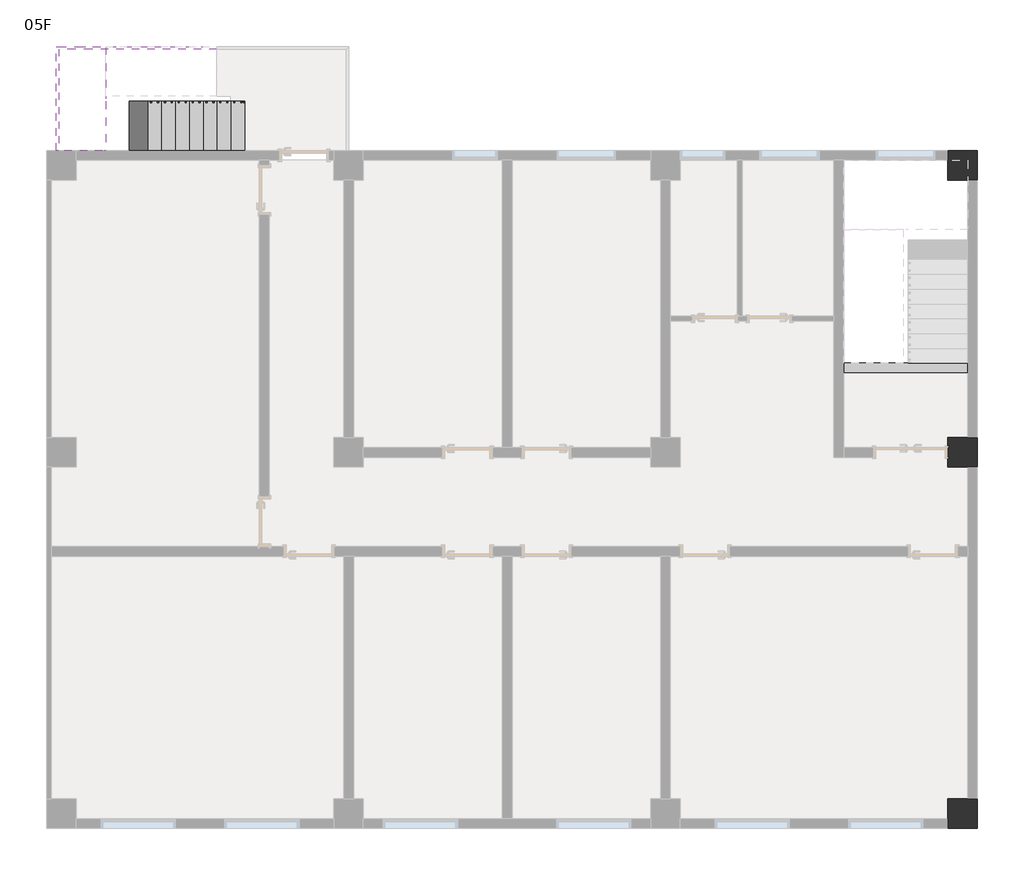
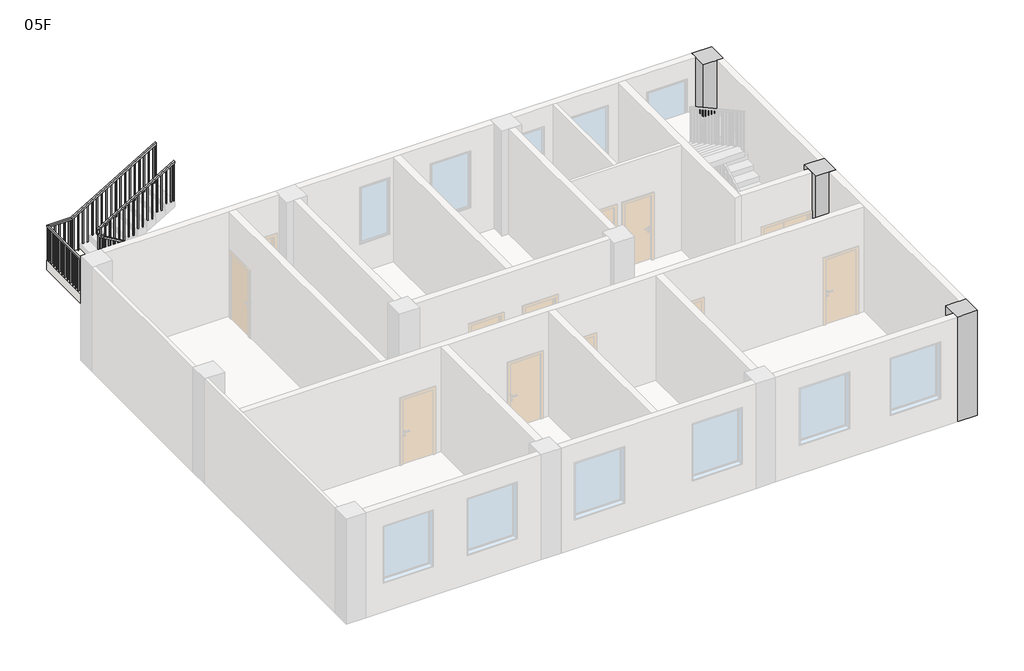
# One storey, part 2 of 3: 3 columns, 2 railings, 1 beam, 1 slab, 1 stair flight.
"""IFC4 building model written with IfcOpenShell, lengths in millimetres."""

from ifc_helpers import new_model, si_unit, frame, origin, place, context, project, spatial, polyline, outline, extrude, faceted_brep, transform, mapped, element, save
from components import beam_200_x_350mm_bc6e23a3, column_600_x_600mm_867b5594

model = new_model("IFC4")

# Units and contexts
model_context = context("Model", 3, world=origin())
ifc_project = project(units=[si_unit("LENGTHUNIT", "METRE", prefix="MILLI")], contexts=[model_context])

# Site, building, storey
site = spatial("IfcSite", under=ifc_project)
building = spatial("IfcBuilding", under=site)
storey = spatial("IfcBuildingStorey", under=building, Name="05F", Elevation=13800.0)

# Beam
placement = place(None, origin())
beam_200_x_350mm_shape = beam_200_x_350mm_bc6e23a3(model_context)
element("IfcBeam", 1, ObjectType="混凝土 - 矩形梁 : 200 x 350mm", at=placement, inside=storey, context=model_context, shape_type="MappedRepresentation", body=[
    mapped(beam_200_x_350mm_shape, transform((17250.0, 9200.0, 13625.0), x_axis=(1.0, 0.0, 0.0), y_axis=(0.0, 1.0, 0.0), z_axis=(0.0, 0.0, 1.0))),
])

# Columns
column_600_x_600mm_shape = column_600_x_600mm_867b5594(model_context)
element("IfcColumn", 2, ObjectType="混凝土 - 矩形 - 柱 : 600 x 600mm", at=placement, inside=storey, context=model_context, shape_type="MappedRepresentation", body=[
    mapped(column_600_x_600mm_shape, transform((18400.0, 13300.0, 0.0), x_axis=(1.0, 0.0, 0.0), y_axis=(0.0, 1.0, 0.0), z_axis=(0.0, 0.0, 1.0))),
])
element("IfcColumn", 3, ObjectType="混凝土 - 矩形 - 柱 : 600 x 600mm", at=placement, inside=storey, context=model_context, shape_type="MappedRepresentation", body=[
    mapped(column_600_x_600mm_shape, transform((18400.0, 7500.0, 0.0), x_axis=(1.0, 0.0, 0.0), y_axis=(0.0, 1.0, 0.0), z_axis=(0.0, 0.0, 1.0))),
])
element("IfcColumn", 4, ObjectType="混凝土 - 矩形 - 柱 : 600 x 600mm", at=placement, inside=storey, context=model_context, shape_type="MappedRepresentation", body=[
    mapped(column_600_x_600mm_shape, transform((18400.0, 200.0, 0.0), x_axis=(1.0, 0.0, 0.0), y_axis=(0.0, 1.0, 0.0), z_axis=(0.0, 0.0, 1.0))),
])

# Railings
element("IfcRailing", 5, ObjectType="1100mm", at=placement, inside=storey, context=model_context, shape_type="SolidModel", body=[
    faceted_brep([(3900.0, 14549.6, 15065.0), (3900.0, 14549.6, 15006.9642857), (3900.0, 14599.6, 15006.9642857), (3900.0, 14599.6, 15065.0), (1174.6, 14549.6, 16671.0392857), (1124.6, 14549.6, 16642.4678571), (1124.6, 14599.6, 16642.4678571), (1174.6, 14599.6, 16671.0392857), (1174.6, 14549.6, 16715.0), (1124.6, 14549.6, 16665.0), (1124.6, 14599.6, 16665.0), (1174.6, 14599.6, 16715.0), (1049.6, 14549.6, 16715.0), (1049.6, 14549.6, 16665.0), (1099.6, 14599.6, 16665.0), (1099.6, 14599.6, 16715.0), (1049.6, 14674.6, 16715.0), (1049.6, 14674.6, 16665.0), (1099.6, 14674.6, 16665.0), (1099.6, 14674.6, 16715.0), (1049.6, 14700.4, 16715.0), (1099.6, 14700.4, 16715.0), (1099.6, 14750.4, 16665.0), (1049.6, 14750.4, 16665.0)], [[[0, 1, 2, 3]], [[1, 0, 4, 5]], [[2, 1, 5, 6]], [[3, 2, 6, 7]], [[0, 3, 7, 4]], [[5, 4, 8, 9]], [[6, 5, 9, 10]], [[7, 6, 10, 11]], [[4, 7, 11, 8]], [[9, 8, 12, 13]], [[10, 9, 13, 14]], [[11, 10, 14, 15]], [[8, 11, 15, 12]], [[13, 12, 16, 17]], [[14, 13, 17, 18]], [[15, 14, 18, 19]], [[12, 15, 19, 16]], [[20, 21, 22, 23]], [[17, 16, 20, 23]], [[18, 17, 23, 22]], [[19, 18, 22, 21]], [[16, 19, 21, 20]]]),
    faceted_brep([(1049.6, 14700.4, 16715.0), (1049.6, 14750.4, 16665.0), (1099.6, 14750.4, 16665.0), (1099.6, 14700.4, 16715.0), (1049.6, 14700.4, 16850.3), (1099.6, 14700.4, 16821.7285714), (1099.6, 14750.4, 16821.7285714), (1049.6, 14750.4, 16850.3)], [[[0, 1, 2, 3]], [[4, 5, 6, 7]], [[1, 0, 4, 7]], [[2, 1, 7, 6]], [[3, 2, 6, 5]], [[0, 3, 5, 4]]]),
    faceted_brep([(1049.6, 14750.4, 16850.3), (1099.6, 14750.4, 16821.7285714), (1099.6, 14700.4, 16821.7285714), (1049.6, 14700.4, 16850.3), (3340.0, 14750.4, 18200.0), (3340.0, 14700.4, 18200.0), (3340.0, 14700.4, 18141.9642857), (3340.0, 14750.4, 18141.9642857)], [[[0, 1, 2, 3]], [[4, 5, 6, 7]], [[1, 0, 4, 7]], [[2, 1, 7, 6]], [[3, 2, 6, 5]], [[0, 3, 5, 4]]]),
    extrude(outline(polyline([(18078.3803571, 3232.1), (16935.0, 3232.1), (16935.0, 3257.1), (18093.1125, 3257.1), (18078.3803571, 3232.1)])), frame((0.0, 14712.9, 0.0), z_axis=(0.0, 1.0, 0.0), x_axis=(0.0, 0.0, 1.0)), (0.0, 0.0, 1.0), 25.0),
    extrude(outline(polyline([(17995.8803571, 3092.1), (16935.0, 3092.1), (16935.0, 3117.1), (18010.6125, 3117.1), (17995.8803571, 3092.1)])), frame((0.0, 14712.9, 0.0), z_axis=(0.0, 1.0, 0.0), x_axis=(0.0, 0.0, 1.0)), (0.0, 0.0, 1.0), 25.0),
    extrude(outline(polyline([(17913.3803571, 2952.1), (16770.0, 2952.1), (16770.0, 2977.1), (17928.1125, 2977.1), (17913.3803571, 2952.1)])), frame((0.0, 14712.9, 0.0), z_axis=(0.0, 1.0, 0.0), x_axis=(0.0, 0.0, 1.0)), (0.0, 0.0, 1.0), 25.0),
    extrude(outline(polyline([(17830.8803571, 2812.1), (16770.0, 2812.1), (16770.0, 2837.1), (17845.6125, 2837.1), (17830.8803571, 2812.1)])), frame((0.0, 14712.9, 0.0), z_axis=(0.0, 1.0, 0.0), x_axis=(0.0, 0.0, 1.0)), (0.0, 0.0, 1.0), 25.0),
    extrude(outline(polyline([(17748.3803571, 2672.1), (16605.0, 2672.1), (16605.0, 2697.1), (17763.1125, 2697.1), (17748.3803571, 2672.1)])), frame((0.0, 14712.9, 0.0), z_axis=(0.0, 1.0, 0.0), x_axis=(0.0, 0.0, 1.0)), (0.0, 0.0, 1.0), 25.0),
    extrude(outline(polyline([(17665.8803571, 2532.1), (16605.0, 2532.1), (16605.0, 2557.1), (17680.6125, 2557.1), (17665.8803571, 2532.1)])), frame((0.0, 14712.9, 0.0), z_axis=(0.0, 1.0, 0.0), x_axis=(0.0, 0.0, 1.0)), (0.0, 0.0, 1.0), 25.0),
    extrude(outline(polyline([(17583.3803571, 2392.1), (16440.0, 2392.1), (16440.0, 2417.1), (17598.1125, 2417.1), (17583.3803571, 2392.1)])), frame((0.0, 14712.9, 0.0), z_axis=(0.0, 1.0, 0.0), x_axis=(0.0, 0.0, 1.0)), (0.0, 0.0, 1.0), 25.0),
    extrude(outline(polyline([(17500.8803571, 2252.1), (16440.0, 2252.1), (16440.0, 2277.1), (17515.6125, 2277.1), (17500.8803571, 2252.1)])), frame((0.0, 14712.9, 0.0), z_axis=(0.0, 1.0, 0.0), x_axis=(0.0, 0.0, 1.0)), (0.0, 0.0, 1.0), 25.0),
    extrude(outline(polyline([(17418.3803571, 2112.1), (16275.0, 2112.1), (16275.0, 2137.1), (17433.1125, 2137.1), (17418.3803571, 2112.1)])), frame((0.0, 14712.9, 0.0), z_axis=(0.0, 1.0, 0.0), x_axis=(0.0, 0.0, 1.0)), (0.0, 0.0, 1.0), 25.0),
    extrude(outline(polyline([(17335.8803571, 1972.1), (16275.0, 1972.1), (16275.0, 1997.1), (17350.6125, 1997.1), (17335.8803571, 1972.1)])), frame((0.0, 14712.9, 0.0), z_axis=(0.0, 1.0, 0.0), x_axis=(0.0, 0.0, 1.0)), (0.0, 0.0, 1.0), 25.0),
    extrude(outline(polyline([(17253.3803571, 1832.1), (16110.0, 1832.1), (16110.0, 1857.1), (17268.1125, 1857.1), (17253.3803571, 1832.1)])), frame((0.0, 14712.9, 0.0), z_axis=(0.0, 1.0, 0.0), x_axis=(0.0, 0.0, 1.0)), (0.0, 0.0, 1.0), 25.0),
    extrude(outline(polyline([(17170.8803571, 1692.1), (16110.0, 1692.1), (16110.0, 1717.1), (17185.6125, 1717.1), (17170.8803571, 1692.1)])), frame((0.0, 14712.9, 0.0), z_axis=(0.0, 1.0, 0.0), x_axis=(0.0, 0.0, 1.0)), (0.0, 0.0, 1.0), 25.0),
    extrude(outline(polyline([(17088.3803571, 1552.1), (15945.0, 1552.1), (15945.0, 1577.1), (17103.1125, 1577.1), (17088.3803571, 1552.1)])), frame((0.0, 14712.9, 0.0), z_axis=(0.0, 1.0, 0.0), x_axis=(0.0, 0.0, 1.0)), (0.0, 0.0, 1.0), 25.0),
    extrude(outline(polyline([(17005.8803571, 1412.1), (15945.0, 1412.1), (15945.0, 1437.1), (17020.6125, 1437.1), (17005.8803571, 1412.1)])), frame((0.0, 14712.9, 0.0), z_axis=(0.0, 1.0, 0.0), x_axis=(0.0, 0.0, 1.0)), (0.0, 0.0, 1.0), 25.0),
    extrude(outline(polyline([(16923.3803571, 1272.1), (15780.0, 1272.1), (15780.0, 1297.1), (16938.1125, 1297.1), (16923.3803571, 1272.1)])), frame((0.0, 14712.9, 0.0), z_axis=(0.0, 1.0, 0.0), x_axis=(0.0, 0.0, 1.0)), (0.0, 0.0, 1.0), 25.0),
    extrude(outline(polyline([(16840.8803571, 1132.1), (15780.0, 1132.1), (15780.0, 1157.1), (16855.6125, 1157.1), (16840.8803571, 1132.1)])), frame((0.0, 14712.9, 0.0), z_axis=(0.0, 1.0, 0.0), x_axis=(0.0, 0.0, 1.0)), (0.0, 0.0, 1.0), 25.0),
    extrude(outline(polyline([(1087.1, 14632.1), (1062.1, 14632.1), (1062.1, 14657.1), (1087.1, 14657.1), (1087.1, 14632.1)])), frame((0.0, 0.0, 15615.0), z_axis=(0.0, 0.0, 1.0), x_axis=(1.0, 0.0, 0.0)), (0.0, 0.0, 1.0), 1050.0),
    extrude(outline(polyline([(15450.0, 1182.5), (16608.3482143, 1182.5), (16623.0803571, 1157.5), (15450.0, 1157.5), (15450.0, 1182.5)])), frame((0.0, 14562.1, 0.0), z_axis=(0.0, 1.0, 0.0), x_axis=(0.0, 0.0, 1.0)), (0.0, 0.0, 1.0), 25.0),
    extrude(outline(polyline([(15450.0, 1322.5), (16525.8482143, 1322.5), (16540.5803571, 1297.5), (15450.0, 1297.5), (15450.0, 1322.5)])), frame((0.0, 14562.1, 0.0), z_axis=(0.0, 1.0, 0.0), x_axis=(0.0, 0.0, 1.0)), (0.0, 0.0, 1.0), 25.0),
    extrude(outline(polyline([(15285.0, 1462.5), (16443.3482143, 1462.5), (16458.0803571, 1437.5), (15285.0, 1437.5), (15285.0, 1462.5)])), frame((0.0, 14562.1, 0.0), z_axis=(0.0, 1.0, 0.0), x_axis=(0.0, 0.0, 1.0)), (0.0, 0.0, 1.0), 25.0),
    extrude(outline(polyline([(15285.0, 1602.5), (16360.8482143, 1602.5), (16375.5803571, 1577.5), (15285.0, 1577.5), (15285.0, 1602.5)])), frame((0.0, 14562.1, 0.0), z_axis=(0.0, 1.0, 0.0), x_axis=(0.0, 0.0, 1.0)), (0.0, 0.0, 1.0), 25.0),
    extrude(outline(polyline([(15120.0, 1742.5), (16278.3482143, 1742.5), (16293.0803571, 1717.5), (15120.0, 1717.5), (15120.0, 1742.5)])), frame((0.0, 14562.1, 0.0), z_axis=(0.0, 1.0, 0.0), x_axis=(0.0, 0.0, 1.0)), (0.0, 0.0, 1.0), 25.0),
    extrude(outline(polyline([(15120.0, 1882.5), (16195.8482143, 1882.5), (16210.5803571, 1857.5), (15120.0, 1857.5), (15120.0, 1882.5)])), frame((0.0, 14562.1, 0.0), z_axis=(0.0, 1.0, 0.0), x_axis=(0.0, 0.0, 1.0)), (0.0, 0.0, 1.0), 25.0),
    extrude(outline(polyline([(14955.0, 2022.5), (16113.3482143, 2022.5), (16128.0803571, 1997.5), (14955.0, 1997.5), (14955.0, 2022.5)])), frame((0.0, 14562.1, 0.0), z_axis=(0.0, 1.0, 0.0), x_axis=(0.0, 0.0, 1.0)), (0.0, 0.0, 1.0), 25.0),
    extrude(outline(polyline([(14955.0, 2162.5), (16030.8482143, 2162.5), (16045.5803571, 2137.5), (14955.0, 2137.5), (14955.0, 2162.5)])), frame((0.0, 14562.1, 0.0), z_axis=(0.0, 1.0, 0.0), x_axis=(0.0, 0.0, 1.0)), (0.0, 0.0, 1.0), 25.0),
    extrude(outline(polyline([(14790.0, 2302.5), (15948.3482143, 2302.5), (15963.0803571, 2277.5), (14790.0, 2277.5), (14790.0, 2302.5)])), frame((0.0, 14562.1, 0.0), z_axis=(0.0, 1.0, 0.0), x_axis=(0.0, 0.0, 1.0)), (0.0, 0.0, 1.0), 25.0),
    extrude(outline(polyline([(14790.0, 2442.5), (15865.8482143, 2442.5), (15880.5803571, 2417.5), (14790.0, 2417.5), (14790.0, 2442.5)])), frame((0.0, 14562.1, 0.0), z_axis=(0.0, 1.0, 0.0), x_axis=(0.0, 0.0, 1.0)), (0.0, 0.0, 1.0), 25.0),
    extrude(outline(polyline([(14625.0, 2582.5), (15783.3482143, 2582.5), (15798.0803571, 2557.5), (14625.0, 2557.5), (14625.0, 2582.5)])), frame((0.0, 14562.1, 0.0), z_axis=(0.0, 1.0, 0.0), x_axis=(0.0, 0.0, 1.0)), (0.0, 0.0, 1.0), 25.0),
    extrude(outline(polyline([(14625.0, 2722.5), (15700.8482143, 2722.5), (15715.5803571, 2697.5), (14625.0, 2697.5), (14625.0, 2722.5)])), frame((0.0, 14562.1, 0.0), z_axis=(0.0, 1.0, 0.0), x_axis=(0.0, 0.0, 1.0)), (0.0, 0.0, 1.0), 25.0),
    extrude(outline(polyline([(14460.0, 2862.5), (15618.3482143, 2862.5), (15633.0803571, 2837.5), (14460.0, 2837.5), (14460.0, 2862.5)])), frame((0.0, 14562.1, 0.0), z_axis=(0.0, 1.0, 0.0), x_axis=(0.0, 0.0, 1.0)), (0.0, 0.0, 1.0), 25.0),
    extrude(outline(polyline([(14460.0, 3002.5), (15535.8482143, 3002.5), (15550.5803571, 2977.5), (14460.0, 2977.5), (14460.0, 3002.5)])), frame((0.0, 14562.1, 0.0), z_axis=(0.0, 1.0, 0.0), x_axis=(0.0, 0.0, 1.0)), (0.0, 0.0, 1.0), 25.0),
    extrude(outline(polyline([(14295.0, 3142.5), (15453.3482143, 3142.5), (15468.0803571, 3117.5), (14295.0, 3117.5), (14295.0, 3142.5)])), frame((0.0, 14562.1, 0.0), z_axis=(0.0, 1.0, 0.0), x_axis=(0.0, 0.0, 1.0)), (0.0, 0.0, 1.0), 25.0),
    extrude(outline(polyline([(14295.0, 3282.5), (15370.8482143, 3282.5), (15385.5803571, 3257.5), (14295.0, 3257.5), (14295.0, 3282.5)])), frame((0.0, 14562.1, 0.0), z_axis=(0.0, 1.0, 0.0), x_axis=(0.0, 0.0, 1.0)), (0.0, 0.0, 1.0), 25.0),
    extrude(outline(polyline([(14130.0, 3422.5), (15288.3482143, 3422.5), (15303.0803571, 3397.5), (14130.0, 3397.5), (14130.0, 3422.5)])), frame((0.0, 14562.1, 0.0), z_axis=(0.0, 1.0, 0.0), x_axis=(0.0, 0.0, 1.0)), (0.0, 0.0, 1.0), 25.0),
    extrude(outline(polyline([(14130.0, 3562.5), (15205.8482143, 3562.5), (15220.5803571, 3537.5), (14130.0, 3537.5), (14130.0, 3562.5)])), frame((0.0, 14562.1, 0.0), z_axis=(0.0, 1.0, 0.0), x_axis=(0.0, 0.0, 1.0)), (0.0, 0.0, 1.0), 25.0),
    extrude(outline(polyline([(13965.0, 3702.5), (15123.3482143, 3702.5), (15138.0803571, 3677.5), (13965.0, 3677.5), (13965.0, 3702.5)])), frame((0.0, 14562.1, 0.0), z_axis=(0.0, 1.0, 0.0), x_axis=(0.0, 0.0, 1.0)), (0.0, 0.0, 1.0), 25.0),
    extrude(outline(polyline([(13965.0, 3842.5), (15040.8482143, 3842.5), (15055.5803571, 3817.5), (13965.0, 3817.5), (13965.0, 3842.5)])), frame((0.0, 14562.1, 0.0), z_axis=(0.0, 1.0, 0.0), x_axis=(0.0, 0.0, 1.0)), (0.0, 0.0, 1.0), 25.0),
    extrude(outline(polyline([(1062.1, 14712.9), (1062.1, 14737.9), (1087.1, 14737.9), (1087.1, 14712.9), (1062.1, 14712.9)])), frame((0.0, 0.0, 15615.0), z_axis=(0.0, 0.0, 1.0), x_axis=(1.0, 0.0, 0.0)), (0.0, 0.0, 1.0), 1050.0),
    extrude(outline(polyline([(1087.1, 14587.1), (1087.1, 14562.1), (1062.1, 14562.1), (1062.1, 14587.1), (1087.1, 14587.1)])), frame((0.0, 0.0, 15615.0), z_axis=(0.0, 0.0, 1.0), x_axis=(1.0, 0.0, 0.0)), (0.0, 0.0, 1.0), 1050.0),
    extrude(outline(polyline([(1112.5, 14587.1), (1112.5, 14562.1), (1087.5, 14562.1), (1087.5, 14587.1), (1112.5, 14587.1)])), frame((0.0, 0.0, 15615.0), z_axis=(0.0, 0.0, 1.0), x_axis=(1.0, 0.0, 0.0)), (0.0, 0.0, 1.0), 1050.0),
    extrude(outline(polyline([(18127.2321429, 3315.0), (16935.0, 3315.0), (16935.0, 3340.0), (18141.9642857, 3340.0), (18127.2321429, 3315.0)])), frame((0.0, 14712.9, 0.0), z_axis=(0.0, 1.0, 0.0), x_axis=(0.0, 0.0, 1.0)), (0.0, 0.0, 1.0), 25.0),
    extrude(outline(polyline([(13965.0, 3900.0), (15006.9642857, 3900.0), (15021.6964286, 3875.0), (13965.0, 3875.0), (13965.0, 3900.0)])), frame((0.0, 14562.1, 0.0), z_axis=(0.0, 1.0, 0.0), x_axis=(0.0, 0.0, 1.0)), (0.0, 0.0, 1.0), 25.0),
])
element("IfcRailing", 6, ObjectType="1100mm", at=placement, inside=storey, context=model_context, shape_type="SolidModel", body=[
    faceted_brep([(100.4, 13600.0, 16715.0), (100.4, 13600.0, 16665.0), (150.4, 13600.0, 16665.0), (150.4, 13600.0, 16715.0), (100.4, 15699.6, 16715.0), (100.4, 15699.6, 16665.0), (150.4, 15649.6, 16665.0), (150.4, 15649.6, 16715.0), (820.0, 15699.6, 16715.0), (833.6363636, 15699.6, 16665.0), (833.6363636, 15649.6, 16665.0), (820.0, 15649.6, 16715.0), (3340.0, 15699.6, 18200.0), (3340.0, 15649.6, 18200.0), (3340.0, 15649.6, 18141.9642857), (3340.0, 15699.6, 18141.9642857)], [[[0, 1, 2, 3]], [[1, 0, 4, 5]], [[2, 1, 5, 6]], [[3, 2, 6, 7]], [[0, 3, 7, 4]], [[5, 4, 8, 9]], [[6, 5, 9, 10]], [[7, 6, 10, 11]], [[4, 7, 11, 8]], [[12, 13, 14, 15]], [[9, 8, 12, 15]], [[10, 9, 15, 14]], [[11, 10, 14, 13]], [[8, 11, 13, 12]]]),
    extrude(outline(polyline([(16935.0, 3257.5), (16935.0, 3282.5), (18108.0803571, 3282.5), (18093.3482143, 3257.5), (16935.0, 3257.5)])), frame((0.0, 15662.1, 0.0), z_axis=(0.0, 1.0, 0.0), x_axis=(0.0, 0.0, 1.0)), (0.0, 0.0, 1.0), 25.0),
    extrude(outline(polyline([(16935.0, 3117.5), (16935.0, 3142.5), (18025.5803571, 3142.5), (18010.8482143, 3117.5), (16935.0, 3117.5)])), frame((0.0, 15662.1, 0.0), z_axis=(0.0, 1.0, 0.0), x_axis=(0.0, 0.0, 1.0)), (0.0, 0.0, 1.0), 25.0),
    extrude(outline(polyline([(16770.0, 2977.5), (16770.0, 3002.5), (17943.0803571, 3002.5), (17928.3482143, 2977.5), (16770.0, 2977.5)])), frame((0.0, 15662.1, 0.0), z_axis=(0.0, 1.0, 0.0), x_axis=(0.0, 0.0, 1.0)), (0.0, 0.0, 1.0), 25.0),
    extrude(outline(polyline([(16770.0, 2837.5), (16770.0, 2862.5), (17860.5803571, 2862.5), (17845.8482143, 2837.5), (16770.0, 2837.5)])), frame((0.0, 15662.1, 0.0), z_axis=(0.0, 1.0, 0.0), x_axis=(0.0, 0.0, 1.0)), (0.0, 0.0, 1.0), 25.0),
    extrude(outline(polyline([(16605.0, 2697.5), (16605.0, 2722.5), (17778.0803571, 2722.5), (17763.3482143, 2697.5), (16605.0, 2697.5)])), frame((0.0, 15662.1, 0.0), z_axis=(0.0, 1.0, 0.0), x_axis=(0.0, 0.0, 1.0)), (0.0, 0.0, 1.0), 25.0),
    extrude(outline(polyline([(16605.0, 2557.5), (16605.0, 2582.5), (17695.5803571, 2582.5), (17680.8482143, 2557.5), (16605.0, 2557.5)])), frame((0.0, 15662.1, 0.0), z_axis=(0.0, 1.0, 0.0), x_axis=(0.0, 0.0, 1.0)), (0.0, 0.0, 1.0), 25.0),
    extrude(outline(polyline([(16440.0, 2417.5), (16440.0, 2442.5), (17613.0803571, 2442.5), (17598.3482143, 2417.5), (16440.0, 2417.5)])), frame((0.0, 15662.1, 0.0), z_axis=(0.0, 1.0, 0.0), x_axis=(0.0, 0.0, 1.0)), (0.0, 0.0, 1.0), 25.0),
    extrude(outline(polyline([(16440.0, 2277.5), (16440.0, 2302.5), (17530.5803571, 2302.5), (17515.8482143, 2277.5), (16440.0, 2277.5)])), frame((0.0, 15662.1, 0.0), z_axis=(0.0, 1.0, 0.0), x_axis=(0.0, 0.0, 1.0)), (0.0, 0.0, 1.0), 25.0),
    extrude(outline(polyline([(16275.0, 2137.5), (16275.0, 2162.5), (17448.0803571, 2162.5), (17433.3482143, 2137.5), (16275.0, 2137.5)])), frame((0.0, 15662.1, 0.0), z_axis=(0.0, 1.0, 0.0), x_axis=(0.0, 0.0, 1.0)), (0.0, 0.0, 1.0), 25.0),
    extrude(outline(polyline([(16275.0, 1997.5), (16275.0, 2022.5), (17365.5803571, 2022.5), (17350.8482143, 1997.5), (16275.0, 1997.5)])), frame((0.0, 15662.1, 0.0), z_axis=(0.0, 1.0, 0.0), x_axis=(0.0, 0.0, 1.0)), (0.0, 0.0, 1.0), 25.0),
    extrude(outline(polyline([(16110.0, 1857.5), (16110.0, 1882.5), (17283.0803571, 1882.5), (17268.3482143, 1857.5), (16110.0, 1857.5)])), frame((0.0, 15662.1, 0.0), z_axis=(0.0, 1.0, 0.0), x_axis=(0.0, 0.0, 1.0)), (0.0, 0.0, 1.0), 25.0),
    extrude(outline(polyline([(16110.0, 1717.5), (16110.0, 1742.5), (17200.5803571, 1742.5), (17185.8482143, 1717.5), (16110.0, 1717.5)])), frame((0.0, 15662.1, 0.0), z_axis=(0.0, 1.0, 0.0), x_axis=(0.0, 0.0, 1.0)), (0.0, 0.0, 1.0), 25.0),
    extrude(outline(polyline([(15945.0, 1577.5), (15945.0, 1602.5), (17118.0803571, 1602.5), (17103.3482143, 1577.5), (15945.0, 1577.5)])), frame((0.0, 15662.1, 0.0), z_axis=(0.0, 1.0, 0.0), x_axis=(0.0, 0.0, 1.0)), (0.0, 0.0, 1.0), 25.0),
    extrude(outline(polyline([(15945.0, 1437.5), (15945.0, 1462.5), (17035.5803571, 1462.5), (17020.8482143, 1437.5), (15945.0, 1437.5)])), frame((0.0, 15662.1, 0.0), z_axis=(0.0, 1.0, 0.0), x_axis=(0.0, 0.0, 1.0)), (0.0, 0.0, 1.0), 25.0),
    extrude(outline(polyline([(15780.0, 1297.5), (15780.0, 1322.5), (16953.0803571, 1322.5), (16938.3482143, 1297.5), (15780.0, 1297.5)])), frame((0.0, 15662.1, 0.0), z_axis=(0.0, 1.0, 0.0), x_axis=(0.0, 0.0, 1.0)), (0.0, 0.0, 1.0), 25.0),
    extrude(outline(polyline([(15780.0, 1157.5), (15780.0, 1182.5), (16870.5803571, 1182.5), (16855.8482143, 1157.5), (15780.0, 1157.5)])), frame((0.0, 15662.1, 0.0), z_axis=(0.0, 1.0, 0.0), x_axis=(0.0, 0.0, 1.0)), (0.0, 0.0, 1.0), 25.0),
    extrude(outline(polyline([(15615.0, 1017.5), (15615.0, 1042.5), (16788.0803571, 1042.5), (16773.3482143, 1017.5), (15615.0, 1017.5)])), frame((0.0, 15662.1, 0.0), z_axis=(0.0, 1.0, 0.0), x_axis=(0.0, 0.0, 1.0)), (0.0, 0.0, 1.0), 25.0),
    extrude(outline(polyline([(15615.0, 877.5), (15615.0, 902.5), (16705.5803571, 902.5), (16690.8482143, 877.5), (15615.0, 877.5)])), frame((0.0, 15662.1, 0.0), z_axis=(0.0, 1.0, 0.0), x_axis=(0.0, 0.0, 1.0)), (0.0, 0.0, 1.0), 25.0),
    extrude(outline(polyline([(742.9, 15687.1), (767.9, 15687.1), (767.9, 15662.1), (742.9, 15662.1), (742.9, 15687.1)])), frame((0.0, 0.0, 15615.0), z_axis=(0.0, 0.0, 1.0), x_axis=(1.0, 0.0, 0.0)), (0.0, 0.0, 1.0), 1050.0),
    extrude(outline(polyline([(602.9, 15687.1), (627.9, 15687.1), (627.9, 15662.1), (602.9, 15662.1), (602.9, 15687.1)])), frame((0.0, 0.0, 15615.0), z_axis=(0.0, 0.0, 1.0), x_axis=(1.0, 0.0, 0.0)), (0.0, 0.0, 1.0), 1050.0),
    extrude(outline(polyline([(462.9, 15687.1), (487.9, 15687.1), (487.9, 15662.1), (462.9, 15662.1), (462.9, 15687.1)])), frame((0.0, 0.0, 15615.0), z_axis=(0.0, 0.0, 1.0), x_axis=(1.0, 0.0, 0.0)), (0.0, 0.0, 1.0), 1050.0),
    extrude(outline(polyline([(322.9, 15687.1), (347.9, 15687.1), (347.9, 15662.1), (322.9, 15662.1), (322.9, 15687.1)])), frame((0.0, 0.0, 15615.0), z_axis=(0.0, 0.0, 1.0), x_axis=(1.0, 0.0, 0.0)), (0.0, 0.0, 1.0), 1050.0),
    extrude(outline(polyline([(182.9, 15687.1), (207.9, 15687.1), (207.9, 15662.1), (182.9, 15662.1), (182.9, 15687.1)])), frame((0.0, 0.0, 15615.0), z_axis=(0.0, 0.0, 1.0), x_axis=(1.0, 0.0, 0.0)), (0.0, 0.0, 1.0), 1050.0),
    extrude(outline(polyline([(112.9, 15617.5), (112.9, 15642.5), (137.9, 15642.5), (137.9, 15617.5), (112.9, 15617.5)])), frame((0.0, 0.0, 15615.0), z_axis=(0.0, 0.0, 1.0), x_axis=(1.0, 0.0, 0.0)), (0.0, 0.0, 1.0), 1050.0),
    extrude(outline(polyline([(112.9, 15477.5), (112.9, 15502.5), (137.9, 15502.5), (137.9, 15477.5), (112.9, 15477.5)])), frame((0.0, 0.0, 15615.0), z_axis=(0.0, 0.0, 1.0), x_axis=(1.0, 0.0, 0.0)), (0.0, 0.0, 1.0), 1050.0),
    extrude(outline(polyline([(112.9, 15337.5), (112.9, 15362.5), (137.9, 15362.5), (137.9, 15337.5), (112.9, 15337.5)])), frame((0.0, 0.0, 15615.0), z_axis=(0.0, 0.0, 1.0), x_axis=(1.0, 0.0, 0.0)), (0.0, 0.0, 1.0), 1050.0),
    extrude(outline(polyline([(112.9, 15197.5), (112.9, 15222.5), (137.9, 15222.5), (137.9, 15197.5), (112.9, 15197.5)])), frame((0.0, 0.0, 15615.0), z_axis=(0.0, 0.0, 1.0), x_axis=(1.0, 0.0, 0.0)), (0.0, 0.0, 1.0), 1050.0),
    extrude(outline(polyline([(112.9, 15057.5), (112.9, 15082.5), (137.9, 15082.5), (137.9, 15057.5), (112.9, 15057.5)])), frame((0.0, 0.0, 15615.0), z_axis=(0.0, 0.0, 1.0), x_axis=(1.0, 0.0, 0.0)), (0.0, 0.0, 1.0), 1050.0),
    extrude(outline(polyline([(112.9, 14917.5), (112.9, 14942.5), (137.9, 14942.5), (137.9, 14917.5), (112.9, 14917.5)])), frame((0.0, 0.0, 15615.0), z_axis=(0.0, 0.0, 1.0), x_axis=(1.0, 0.0, 0.0)), (0.0, 0.0, 1.0), 1050.0),
    extrude(outline(polyline([(112.9, 14777.5), (112.9, 14802.5), (137.9, 14802.5), (137.9, 14777.5), (112.9, 14777.5)])), frame((0.0, 0.0, 15615.0), z_axis=(0.0, 0.0, 1.0), x_axis=(1.0, 0.0, 0.0)), (0.0, 0.0, 1.0), 1050.0),
    extrude(outline(polyline([(112.9, 14637.5), (112.9, 14662.5), (137.9, 14662.5), (137.9, 14637.5), (112.9, 14637.5)])), frame((0.0, 0.0, 15615.0), z_axis=(0.0, 0.0, 1.0), x_axis=(1.0, 0.0, 0.0)), (0.0, 0.0, 1.0), 1050.0),
    extrude(outline(polyline([(112.9, 14497.5), (112.9, 14522.5), (137.9, 14522.5), (137.9, 14497.5), (112.9, 14497.5)])), frame((0.0, 0.0, 15615.0), z_axis=(0.0, 0.0, 1.0), x_axis=(1.0, 0.0, 0.0)), (0.0, 0.0, 1.0), 1050.0),
    extrude(outline(polyline([(112.9, 14357.5), (112.9, 14382.5), (137.9, 14382.5), (137.9, 14357.5), (112.9, 14357.5)])), frame((0.0, 0.0, 15615.0), z_axis=(0.0, 0.0, 1.0), x_axis=(1.0, 0.0, 0.0)), (0.0, 0.0, 1.0), 1050.0),
    extrude(outline(polyline([(112.9, 14217.5), (112.9, 14242.5), (137.9, 14242.5), (137.9, 14217.5), (112.9, 14217.5)])), frame((0.0, 0.0, 15615.0), z_axis=(0.0, 0.0, 1.0), x_axis=(1.0, 0.0, 0.0)), (0.0, 0.0, 1.0), 1050.0),
    extrude(outline(polyline([(112.9, 14077.5), (112.9, 14102.5), (137.9, 14102.5), (137.9, 14077.5), (112.9, 14077.5)])), frame((0.0, 0.0, 15615.0), z_axis=(0.0, 0.0, 1.0), x_axis=(1.0, 0.0, 0.0)), (0.0, 0.0, 1.0), 1050.0),
    extrude(outline(polyline([(112.9, 13937.5), (112.9, 13962.5), (137.9, 13962.5), (137.9, 13937.5), (112.9, 13937.5)])), frame((0.0, 0.0, 15615.0), z_axis=(0.0, 0.0, 1.0), x_axis=(1.0, 0.0, 0.0)), (0.0, 0.0, 1.0), 1050.0),
    extrude(outline(polyline([(112.9, 13797.5), (112.9, 13822.5), (137.9, 13822.5), (137.9, 13797.5), (112.9, 13797.5)])), frame((0.0, 0.0, 15615.0), z_axis=(0.0, 0.0, 1.0), x_axis=(1.0, 0.0, 0.0)), (0.0, 0.0, 1.0), 1050.0),
    extrude(outline(polyline([(112.9, 13657.5), (112.9, 13682.5), (137.9, 13682.5), (137.9, 13657.5), (112.9, 13657.5)])), frame((0.0, 0.0, 15615.0), z_axis=(0.0, 0.0, 1.0), x_axis=(1.0, 0.0, 0.0)), (0.0, 0.0, 1.0), 1050.0),
    extrude(outline(polyline([(807.5, 15687.1), (832.5, 15687.1), (832.5, 15662.1), (807.5, 15662.1), (807.5, 15687.1)])), frame((0.0, 0.0, 15615.0), z_axis=(0.0, 0.0, 1.0), x_axis=(1.0, 0.0, 0.0)), (0.0, 0.0, 1.0), 1050.0),
    extrude(outline(polyline([(112.9, 15662.1), (112.9, 15687.1), (137.9, 15687.1), (137.9, 15662.1), (112.9, 15662.1)])), frame((0.0, 0.0, 15615.0), z_axis=(0.0, 0.0, 1.0), x_axis=(1.0, 0.0, 0.0)), (0.0, 0.0, 1.0), 1050.0),
    extrude(outline(polyline([(16935.0, 3315.0), (16935.0, 3340.0), (18141.9642857, 3340.0), (18127.2321429, 3315.0), (16935.0, 3315.0)])), frame((0.0, 15662.1, 0.0), z_axis=(0.0, 1.0, 0.0), x_axis=(0.0, 0.0, 1.0)), (0.0, 0.0, 1.0), 25.0),
    extrude(outline(polyline([(112.9, 13600.0), (112.9, 13625.0), (137.9, 13625.0), (137.9, 13600.0), (112.9, 13600.0)])), frame((0.0, 0.0, 15615.0), z_axis=(0.0, 0.0, 1.0), x_axis=(1.0, 0.0, 0.0)), (0.0, 0.0, 1.0), 1050.0),
])

# Slab
element("IfcSlab", 7, ObjectType="300mm 厚度", at=placement, inside=storey, context=model_context, shape_type="Brep", body=[
    faceted_brep([(1100.0, 13600.0, 15615.0), (1100.0, 14600.0, 15615.0), (1100.0, 14700.0, 15615.0), (1100.0, 15700.0, 15615.0), (886.3636364, 15700.0, 15615.0), (100.0, 15700.0, 15615.0), (100.0, 13600.0, 15615.0), (1033.6363636, 13600.0, 15615.0), (1100.0, 13600.0, 15450.0), (1100.0, 13600.0, 15275.8928571), (1100.0, 14600.0, 15275.8928571), (1100.0, 14600.0, 15315.0), (1100.0, 14700.0, 15315.0), (1100.0, 14700.0, 15440.8928571), (1100.0, 15700.0, 15440.8928571), (886.3636364, 15700.0, 15315.0), (100.0, 15700.0, 15315.0), (100.0, 13600.0, 15315.0), (1033.6363636, 13600.0, 15315.0), (886.3636364, 14700.0, 15315.0), (1033.6363636, 14600.0, 15315.0)], [[[0, 1, 2, 3, 4, 5, 6, 7]], [[1, 0, 8, 9, 10, 11]], [[2, 1, 11, 12, 13]], [[3, 2, 13, 14]], [[3, 14, 15, 16, 5, 4]], [[6, 5, 16, 17]], [[9, 8, 0, 7, 6, 17, 18]], [[19, 12, 11, 20, 18, 17, 16, 15]], [[12, 19, 13]], [[18, 20, 10, 9]], [[20, 11, 10]], [[19, 15, 14, 13]]]),
])

# Stair flight
element("IfcStairFlight", 8, ObjectType="150mm 结构深度", at=placement, inside=storey, context=model_context, shape_type="Brep", body=[
    faceted_brep([(3620.0, 13600.0, 13965.0), (3900.0, 13600.0, 13965.0), (3900.0, 14600.0, 13965.0), (3620.0, 14600.0, 13965.0), (3620.0, 13600.0, 13800.0), (3900.0, 13600.0, 13800.0), (3900.0, 14600.0, 13800.0), (3620.0, 14600.0, 13800.0), (3340.0, 13600.0, 14130.0), (3620.0, 13600.0, 14130.0), (3620.0, 14600.0, 14130.0), (3340.0, 14600.0, 14130.0), (3340.0, 13600.0, 13955.8928571), (3604.5454545, 13600.0, 13800.0), (3604.5454545, 14600.0, 13800.0), (3340.0, 14600.0, 13955.8928571), (3060.0, 13600.0, 14295.0), (3340.0, 13600.0, 14295.0), (3340.0, 14600.0, 14295.0), (3060.0, 14600.0, 14295.0), (3060.0, 13600.0, 14120.8928571), (3060.0, 14600.0, 14120.8928571), (2780.0, 13600.0, 14460.0), (3060.0, 13600.0, 14460.0), (3060.0, 14600.0, 14460.0), (2780.0, 14600.0, 14460.0), (2780.0, 13600.0, 14285.8928571), (2780.0, 14600.0, 14285.8928571), (2500.0, 13600.0, 14625.0), (2780.0, 13600.0, 14625.0), (2780.0, 14600.0, 14625.0), (2500.0, 14600.0, 14625.0), (2500.0, 13600.0, 14450.8928571), (2500.0, 14600.0, 14450.8928571), (2220.0, 13600.0, 14790.0), (2500.0, 13600.0, 14790.0), (2500.0, 14600.0, 14790.0), (2220.0, 14600.0, 14790.0), (2220.0, 13600.0, 14615.8928571), (2220.0, 14600.0, 14615.8928571), (1940.0, 13600.0, 14955.0), (2220.0, 13600.0, 14955.0), (2220.0, 14600.0, 14955.0), (1940.0, 14600.0, 14955.0), (1940.0, 13600.0, 14780.8928571), (1940.0, 14600.0, 14780.8928571), (1660.0, 13600.0, 15120.0), (1940.0, 13600.0, 15120.0), (1940.0, 14600.0, 15120.0), (1660.0, 14600.0, 15120.0), (1660.0, 13600.0, 14945.8928571), (1660.0, 14600.0, 14945.8928571), (1380.0, 13600.0, 15285.0), (1660.0, 13600.0, 15285.0), (1660.0, 14600.0, 15285.0), (1380.0, 14600.0, 15285.0), (1380.0, 13600.0, 15110.8928571), (1380.0, 14600.0, 15110.8928571), (1100.0, 13600.0, 15450.0), (1380.0, 13600.0, 15450.0), (1380.0, 14600.0, 15450.0), (1100.0, 14600.0, 15450.0), (1100.0, 13600.0, 15275.8928571), (1100.0, 14600.0, 15275.8928571), (1100.0, 14600.0, 15315.0)], [[[0, 1, 2, 3]], [[1, 0, 4, 5]], [[2, 1, 5, 6]], [[3, 2, 6, 7]], [[8, 9, 10, 11]], [[4, 0, 9, 8, 12, 13]], [[0, 3, 10, 9]], [[3, 7, 14, 15, 11, 10]], [[16, 17, 18, 19]], [[17, 16, 20, 12, 8]], [[8, 11, 18, 17]], [[19, 18, 11, 15, 21]], [[22, 23, 24, 25]], [[23, 22, 26, 20, 16]], [[16, 19, 24, 23]], [[25, 24, 19, 21, 27]], [[28, 29, 30, 31]], [[29, 28, 32, 26, 22]], [[22, 25, 30, 29]], [[31, 30, 25, 27, 33]], [[34, 35, 36, 37]], [[35, 34, 38, 32, 28]], [[28, 31, 36, 35]], [[37, 36, 31, 33, 39]], [[40, 41, 42, 43]], [[41, 40, 44, 38, 34]], [[34, 37, 42, 41]], [[43, 42, 37, 39, 45]], [[46, 47, 48, 49]], [[47, 46, 50, 44, 40]], [[40, 43, 48, 47]], [[49, 48, 43, 45, 51]], [[52, 53, 54, 55]], [[53, 52, 56, 50, 46]], [[46, 49, 54, 53]], [[55, 54, 49, 51, 57]], [[58, 59, 60, 61]], [[59, 58, 62, 56, 52]], [[52, 55, 60, 59]], [[61, 60, 55, 57, 63, 64]], [[58, 61, 64, 63, 62]], [[5, 4, 13, 14, 7, 6]], [[14, 13, 12, 20, 26, 32, 38, 44, 50, 56, 62, 63, 57, 51, 45, 39, 33, 27, 21, 15]]]),
])

save(model, "model.ifc")
